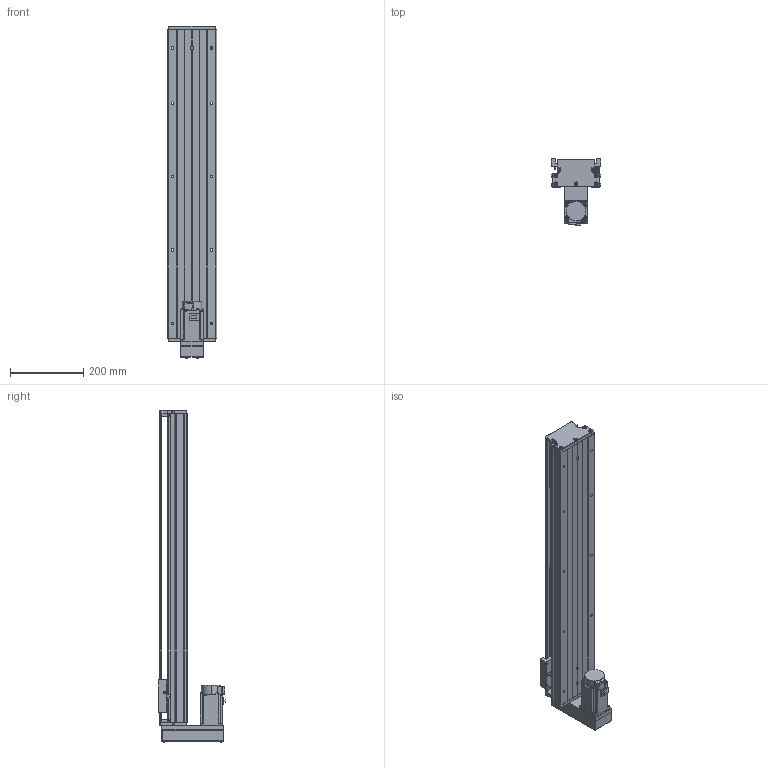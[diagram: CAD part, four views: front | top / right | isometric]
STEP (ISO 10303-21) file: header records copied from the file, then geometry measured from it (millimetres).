
FILE_DESCRIPTION (( 'STEP AP203' ), '1' );
FILE_NAME ('KTH130-700-BM-M40-C4.step', '2023-06-30T04:05:35', ( '微软用户' ), ( '微软中国' ), 'SwSTEP 2.0', 'SolidWorks 2020', '' );
FILE_SCHEMA (( 'CONFIG_CONTROL_DESIGN' ));
Length unit declared in the file: millimetre
Products named in the file (19): GBT 70.2-M3¡Á5_M3¡Á6; GBT 70.3-M3℅8; CTHA60-017; HG-KN43J-S100; KTH130-002_KTH130-002; EE_SX911P_R; GBT 70.2-M4¡Á35_M4¡Á35; KTH130-004; CTHA60-016; GTH14-015-2_CTHA86-015-2; KTH130-005; GBT 70.1-M3℅5; GTH14-033; GB1155-6X6; GTH14-001_700; GBT77-2000 M3×3; KTH130-700-BM-M40-C4; GBT70.1 M5℅16; す晦芛蹟隊 M3℅5
Assembly tree (53 placements, depth 2):
  KTH130-700-BM-M40-C4
    GTH14-001_700
    KTH130-002_KTH130-002
    KTH130-004
    KTH130-005
    GB1155-6X6  x2
    GBT70.1 M5℅16  x10
    GBT 70.2-M3¡Á5_M3¡Á6  x4
    CTHA60-017  x3
    EE_SX911P_R  x3
    CTHA60-016  x2
    GBT 70.1-M3℅5  x6
    GBT77-2000 M3×3  x6
    す晦芛蹟隊 M3℅5  x2
    GBT 70.3-M3℅8  x4
    HG-KN43J-S100
    GBT 70.2-M4¡Á35_M4¡Á35  x4
    GTH14-015-2_CTHA86-015-2
    GTH14-033
Bounding box: 135 x 181.8 x 904.2 mm (x, y, z)
Volume: 5154309.4 mm3; surface area: 838592.3 mm2
Topology: 56 solids, 56 shells, 2223 faces, 5366 edges, 3342 vertices
Faces by surface type: plane 1197, cylinder 612, cone 290, torus 100, sphere 24
Entity records: 40558 total; most frequent: CARTESIAN_POINT 8634, DIRECTION 6039, ORIENTED_EDGE 5932, EDGE_CURVE 2966, AXIS2_PLACEMENT_3D 2078, VERTEX_POINT 1895, VECTOR 1883, LINE 1883
